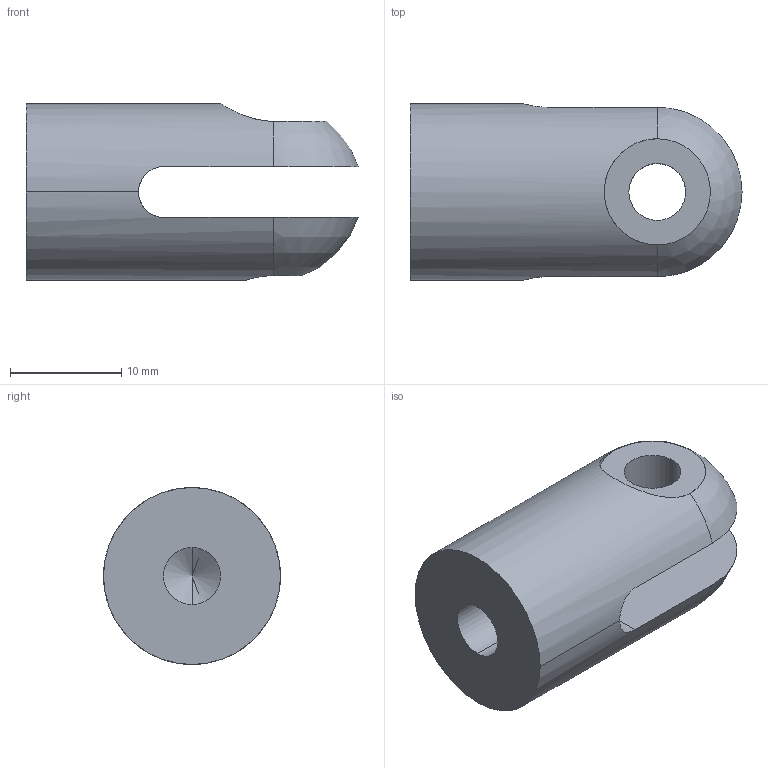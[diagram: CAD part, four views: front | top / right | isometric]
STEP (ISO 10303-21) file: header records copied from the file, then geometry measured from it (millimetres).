
FILE_DESCRIPTION (( 'STEP AP203' ), '1' );
FILE_NAME ('0.500 In. End Thread Female Clevis.STEP', '2015-09-08T19:53:33', ( 'Allred & Associates' ), ( 'Allred & Associates' ), 'SwSTEP 2.0', 'SolidWorks 2015', '' );
FILE_SCHEMA (( 'CONFIG_CONTROL_DESIGN' ));
Length unit declared in the file: inch
Products named in the file (1): 0.500 In. End Thread Female Clevis
Bounding box: 29.79 x 15.88 x 15.88 mm (x, y, z)
Volume: 3745.1 mm3; surface area: 2260.7 mm2
Topology: 1 solids, 1 shells, 21 faces, 58 edges, 37 vertices
Faces by surface type: cylinder 12, plane 5, cone 2, sphere 2
Entity records: 869 total; most frequent: CARTESIAN_POINT 243, DIRECTION 120, ORIENTED_EDGE 112, EDGE_CURVE 56, AXIS2_PLACEMENT_3D 50, VERTEX_POINT 37, CIRCLE 28, EDGE_LOOP 25
